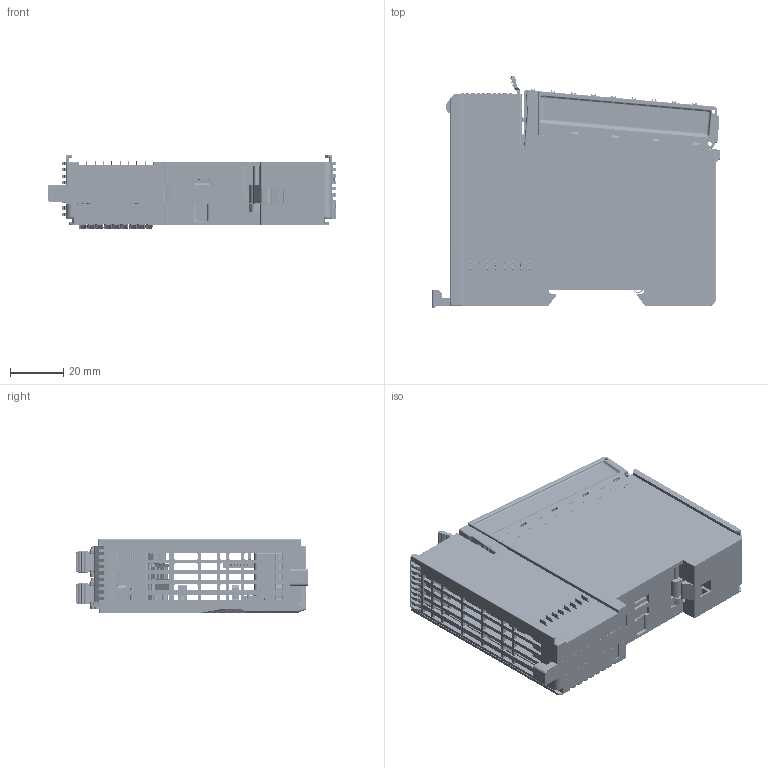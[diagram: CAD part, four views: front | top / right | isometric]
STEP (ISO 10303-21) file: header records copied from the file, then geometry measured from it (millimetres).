
FILE_DESCRIPTION(('SolidDesigner STEP Export'),'2;1');
FILE_NAME('双18位端子.stp','2025-10-09T10:57:51',(''),(''),'Creo Elements/Direct Modeling STEP processor for AP214 (Solid Model)','Creo Elements/Direct Modeling 20.1 10-Mar-2018 (C) Parametric Technology GmbH','');
FILE_SCHEMA(('AUTOMOTIVE_DESIGN { 1 0 10303 214 1 1 1 1 }'));
Products named in the file (19): HSCP-SP-1_5-18-IO-OT; FAPA-WIRING-CONNECTOR-18P.1; 18; IO film-24; VAL-M_FEDER_0.5mm__00257410; IO_PCB-24-WS; plastic_housing; THREE_LINKS_CONNECTOR; Grounding_spring.1.1; IO PCB-24; IO-24 PCB WT; IO-24.1; Io-24 housing-R.X; Io-24 housing-L.X; Plastic pull rod; Light_guide_cover; side_cover; shell; IO-24-双18位端子.stp
Assembly tree (19 placements, depth 5):
  IO-24-双18位端子.stp
    shell
      side_cover
      Light_guide_cover
      Plastic pull rod
      Io-24 housing-L.X
      Io-24 housing-R.X
    IO-24.1
      IO-24 PCB WT
        IO PCB-24
        Grounding_spring.1.1
        THREE_LINKS_CONNECTOR
          plastic_housing
        IO_PCB-24-WS
      VAL-M_FEDER_0.5mm__00257410
      IO film-24
      18
        FAPA-WIRING-CONNECTOR-18P.1  x2
          HSCP-SP-1_5-18-IO-OT
Bounding box: 108.65 x 87.38 x 27.7 mm (x, y, z)
Volume: 77712.4 mm3; surface area: 106674.7 mm2
Topology: 13 solids, 153 shells, 19127 faces, 53521 edges, 34813 vertices
Faces by surface type: plane 14281, cylinder 3718, cone 496, bspline 383, torus 144, sphere 82, extrusion 23
Entity records: 516178 total; most frequent: CARTESIAN_POINT 122147, ORIENTED_EDGE 85928, DIRECTION 73564, EDGE_CURVE 42964, VECTOR 34310, LINE 34287, VERTEX_POINT 28061, AXIS2_PLACEMENT_3D 19627
